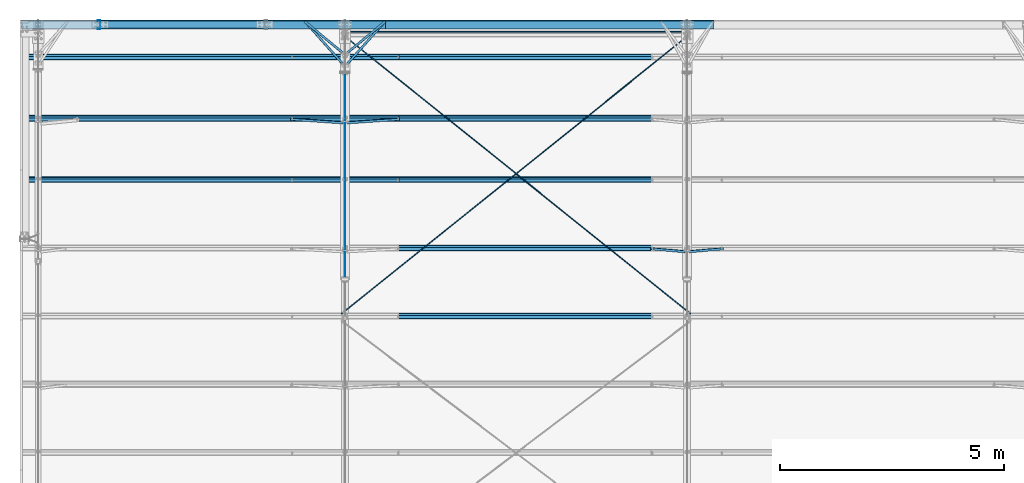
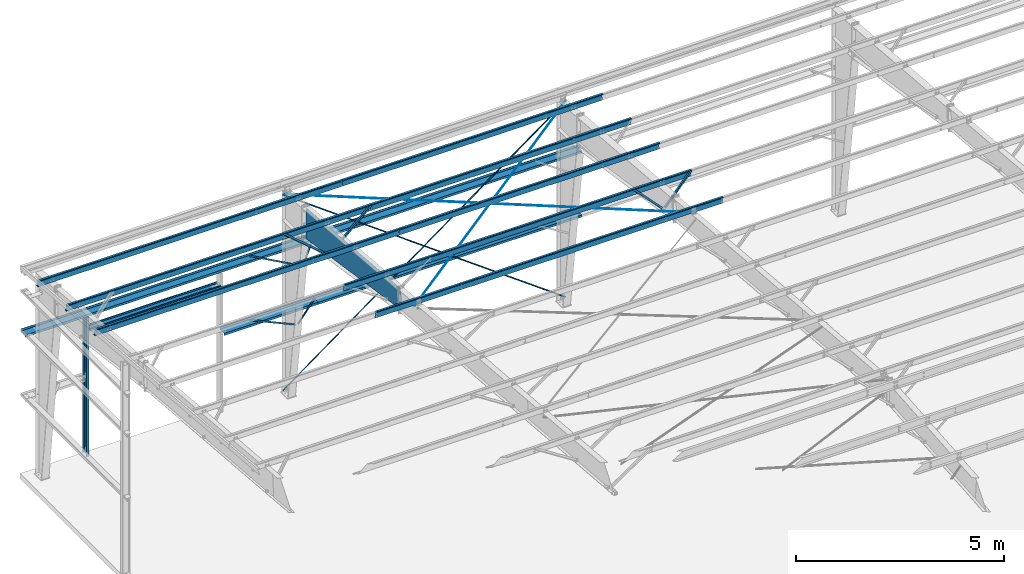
# One storey, part 13 of 185: 21 beams, 6 members, 27 elements without a shape of their own.
"""IFC2X3 building model written with IfcOpenShell, lengths in millimetres."""

from ifc_helpers import new_model, si_unit, frame, origin_with_axes, origin_2d_with_axis, place, context, subcontext, project, spatial, polyline, rectangle, circle, outline, extrude, clip, halfspace, material, type_object, element, aggregate, save


model = new_model("IFC2X3")

# Units and contexts
model_context = context("Model", 3, precision=1e-05, world=origin_with_axes())
body_context = subcontext(model_context, "Body", "Model", "MODEL_VIEW")
ifc_project = project(units=[si_unit("LENGTHUNIT", "METRE", prefix="MILLI"), si_unit("AREAUNIT", "SQUARE_METRE"), si_unit("VOLUMEUNIT", "CUBIC_METRE"), si_unit("MASSUNIT", "GRAM", prefix="KILO"), si_unit("TIMEUNIT", "SECOND"), si_unit("PLANEANGLEUNIT", "RADIAN"), si_unit("SOLIDANGLEUNIT", "STERADIAN"), si_unit("THERMODYNAMICTEMPERATUREUNIT", "DEGREE_CELSIUS"), si_unit("LUMINOUSINTENSITYUNIT", "LUMEN")], contexts=[model_context])

# Site, building, storey
site_placement = place(None, origin_with_axes())
site = spatial("IfcSite", under=ifc_project, at=site_placement, Name="Undefined", CompositionType="ELEMENT")
building_placement = place(site_placement, origin_with_axes())
building = spatial("IfcBuilding", under=site, at=building_placement, Name="Undefined", CompositionType="ELEMENT")
storey_placement = place(building_placement, origin_with_axes())
storey = spatial("IfcBuildingStorey", under=building, at=storey_placement, Name="Undefined", CompositionType="ELEMENT", Elevation=0.0)

# Assembly, beam
assembly_1_placement = place(storey_placement, origin_with_axes())
assembly_1 = element("IfcElementAssembly", 1, at=assembly_1_placement, inside=storey, Name="Steel Assembly", AssemblyPlace="NOTDEFINED", PredefinedType="RIGID_FRAME")
ifc_material = material(Name="STEEL/55")
beam_type_1 = type_object("IfcBeamType", Name="8Z15", PredefinedType="NOTDEFINED")
beam_1_placement = place(assembly_1_placement, frame((14859.0, 31180.9195102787, 6062.63787351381), z_axis=(0.0, -0.0830454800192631, -0.996545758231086), x_axis=(-1.0, 0.0, 0.0)))
beam_1 = element("IfcBeam", 2, at=beam_1_placement, type_object=beam_type_1, material=ifc_material, Name="Purlin", ObjectType="8Z15", context=body_context, shape_type="Clipping", body=[
    clip(clip(extrude(outline(polyline([(-75.75, 87.0100021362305), (-63.5, 101.599998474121), (1.5900000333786, 101.599998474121), (1.5900000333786, -98.4199981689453), (62.0200004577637, -98.4199981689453), (73.3099975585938, -84.9700012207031), (75.7399978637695, -87.0100021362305), (63.5, -101.599998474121), (-1.5900000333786, -101.599998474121), (-1.5900000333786, 98.4199981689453), (-62.0200004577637, 98.4199981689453), (-73.3099975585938, 84.9700012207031), (-75.75, 87.0100021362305)])), frame((8826.5, 0.0, 0.0), z_axis=(-1.0, 0.0, 0.0), x_axis=(0.0, -1.0, 0.0)), (0.0, 0.0, 1.0), 9626.6), halfspace(frame((8826.5, 2.91402102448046e-09, -101.600000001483), z_axis=(-1.0, 0.0, 0.0), x_axis=(0.0, 0.0, 1.0)), True)), halfspace(frame((-800.1, 2.91402102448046e-09, -101.600000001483), z_axis=(-1.0, 0.0, 0.0), x_axis=(0.0, 0.0, 1.0)), False)),
])
aggregate(assembly_1, [beam_1])

assembly_2_placement = place(storey_placement, origin_with_axes())
assembly_2 = element("IfcElementAssembly", 3, at=assembly_2_placement, inside=storey, Name="Steel Assembly", AssemblyPlace="NOTDEFINED", PredefinedType="RIGID_FRAME")
beam_2_placement = place(assembly_2_placement, frame((14859.0, 29814.0573482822, 6176.54305391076), z_axis=(0.0, -0.0830454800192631, -0.996545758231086), x_axis=(-1.0, 0.0, 0.0)))
beam_2 = element("IfcBeam", 4, at=beam_2_placement, type_object=beam_type_1, material=ifc_material, Name="Purlin", ObjectType="8Z15", context=body_context, shape_type="Clipping", body=[
    clip(clip(extrude(outline(polyline([(-75.75, 87.0100021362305), (-63.5, 101.599998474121), (1.5900000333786, 101.599998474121), (1.5900000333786, -98.4199981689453), (62.0200004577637, -98.4199981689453), (73.3099975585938, -84.9700012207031), (75.7399978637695, -87.0100021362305), (63.5, -101.599998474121), (-1.5900000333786, -101.599998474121), (-1.5900000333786, 98.4199981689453), (-62.0200004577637, 98.4199981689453), (-73.3099975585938, 84.9700012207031), (-75.75, 87.0100021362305)])), frame((8826.5, 0.0, 0.0), z_axis=(-1.0, 0.0, 0.0), x_axis=(0.0, -1.0, 0.0)), (0.0, 0.0, 1.0), 9626.6), halfspace(frame((8826.5, 2.91402102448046e-09, -101.600000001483), z_axis=(-1.0, 0.0, 0.0), x_axis=(0.0, 0.0, 1.0)), True)), halfspace(frame((-800.1, 2.91402102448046e-09, -101.600000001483), z_axis=(-1.0, 0.0, 0.0), x_axis=(0.0, 0.0, 1.0)), False)),
])
aggregate(assembly_2, [beam_2])

assembly_3_placement = place(storey_placement, origin_with_axes())
assembly_3 = element("IfcElementAssembly", 5, at=assembly_3_placement, inside=storey, Name="Steel Assembly", AssemblyPlace="NOTDEFINED", PredefinedType="RIGID_FRAME")
beam_3_placement = place(assembly_3_placement, frame((14859.0, 28447.1951862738, 6290.4482343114), z_axis=(0.0, -0.0830454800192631, -0.996545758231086), x_axis=(-1.0, 0.0, 0.0)))
beam_3 = element("IfcBeam", 6, at=beam_3_placement, type_object=beam_type_1, material=ifc_material, Name="Purlin", ObjectType="8Z15", context=body_context, shape_type="Clipping", body=[
    clip(clip(extrude(outline(polyline([(-75.75, 87.0100021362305), (-63.5, 101.599998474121), (1.5900000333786, 101.599998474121), (1.5900000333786, -98.4199981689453), (62.0200004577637, -98.4199981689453), (73.3099975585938, -84.9700012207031), (75.7399978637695, -87.0100021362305), (63.5, -101.599998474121), (-1.5900000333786, -101.599998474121), (-1.5900000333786, 98.4199981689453), (-62.0200004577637, 98.4199981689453), (-73.3099975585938, 84.9700012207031), (-75.75, 87.0100021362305)])), frame((8826.5, 0.0, 0.0), z_axis=(-1.0, 0.0, 0.0), x_axis=(0.0, -1.0, 0.0)), (0.0, 0.0, 1.0), 9626.6), halfspace(frame((8826.5, 2.91402102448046e-09, -101.600000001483), z_axis=(-1.0, 0.0, 0.0), x_axis=(0.0, 0.0, 1.0)), True)), halfspace(frame((-800.1, 2.91402102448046e-09, -101.600000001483), z_axis=(-1.0, 0.0, 0.0), x_axis=(0.0, 0.0, 1.0)), False)),
])
aggregate(assembly_3, [beam_3])

assembly_4_placement = place(storey_placement, origin_with_axes())
assembly_4 = element("IfcElementAssembly", 7, at=assembly_4_placement, inside=storey, Name="Steel Assembly", AssemblyPlace="NOTDEFINED", PredefinedType="RIGID_FRAME")
beam_4_placement = place(assembly_4_placement, frame((14859.0, 26928.4594507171, 6417.00954586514), z_axis=(0.0, -0.0830454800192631, -0.996545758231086), x_axis=(-1.0, 0.0, 0.0)))
beam_4 = element("IfcBeam", 8, at=beam_4_placement, type_object=beam_type_1, material=ifc_material, Name="Purlin", ObjectType="8Z15", context=body_context, shape_type="Clipping", body=[
    clip(clip(extrude(outline(polyline([(-75.75, 87.0100021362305), (-63.5, 101.599998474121), (1.5900000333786, 101.599998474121), (1.5900000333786, -98.4199981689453), (62.0200004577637, -98.4199981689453), (73.3099975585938, -84.9700012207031), (75.7399978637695, -87.0100021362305), (63.5, -101.599998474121), (-1.5900000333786, -101.599998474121), (-1.5900000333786, 98.4199981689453), (-62.0200004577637, 98.4199981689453), (-73.3099975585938, 84.9700012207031), (-75.75, 87.0100021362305)])), frame((8826.5, 0.0, 0.0), z_axis=(-1.0, 0.0, 0.0), x_axis=(0.0, -1.0, 0.0)), (0.0, 0.0, 1.0), 9626.6), halfspace(frame((8826.5, 2.91402102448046e-09, -101.600000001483), z_axis=(-1.0, 0.0, 0.0), x_axis=(0.0, 0.0, 1.0)), True)), halfspace(frame((-800.1, 2.91402102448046e-09, -101.600000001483), z_axis=(-1.0, 0.0, 0.0), x_axis=(0.0, 0.0, 1.0)), False)),
])
aggregate(assembly_4, [beam_4])

assembly_5_placement = place(storey_placement, origin_with_axes())
assembly_5 = element("IfcElementAssembly", 9, at=assembly_5_placement, inside=storey, Name="Steel Assembly", AssemblyPlace="NOTDEFINED", PredefinedType="RIGID_FRAME")
beam_5_placement = place(assembly_5_placement, frame((14859.0, 25409.7237151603, 6543.57085741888), z_axis=(0.0, -0.0830454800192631, -0.996545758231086), x_axis=(-1.0, 0.0, 0.0)))
beam_5 = element("IfcBeam", 10, at=beam_5_placement, type_object=beam_type_1, material=ifc_material, Name="Purlin", ObjectType="8Z15", context=body_context, shape_type="Clipping", body=[
    clip(clip(extrude(outline(polyline([(-75.75, 87.0100021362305), (-63.5, 101.599998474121), (1.5900000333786, 101.599998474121), (1.5900000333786, -98.4199981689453), (62.0200004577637, -98.4199981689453), (73.3099975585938, -84.9700012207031), (75.7399978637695, -87.0100021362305), (63.5, -101.599998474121), (-1.5900000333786, -101.599998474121), (-1.5900000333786, 98.4199981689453), (-62.0200004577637, 98.4199981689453), (-73.3099975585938, 84.9700012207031), (-75.75, 87.0100021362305)])), frame((8826.5, 0.0, 0.0), z_axis=(-1.0, 0.0, 0.0), x_axis=(0.0, -1.0, 0.0)), (0.0, 0.0, 1.0), 9626.6), halfspace(frame((8826.5, 2.91402102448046e-09, -101.600000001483), z_axis=(-1.0, 0.0, 0.0), x_axis=(0.0, 0.0, 1.0)), True)), halfspace(frame((-800.1, 2.91402102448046e-09, -101.600000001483), z_axis=(-1.0, 0.0, 0.0), x_axis=(0.0, 0.0, 1.0)), False)),
])
aggregate(assembly_5, [beam_5])

assembly_6_placement = place(storey_placement, origin_with_axes())
assembly_6 = element("IfcElementAssembly", 11, at=assembly_6_placement, inside=storey, Name="Steel Assembly", AssemblyPlace="NOTDEFINED", PredefinedType="RIGID_FRAME")
beam_6_placement = place(assembly_6_placement, frame((14859.0, 31902.4, 4165.6), z_axis=(0.0, -1.0, 0.0), x_axis=(-1.0, 0.0, 0.0)))
beam_6 = element("IfcBeam", 12, at=beam_6_placement, type_object=beam_type_1, material=ifc_material, Name="Girt", ObjectType="8Z15", context=body_context, shape_type="Clipping", body=[
    clip(clip(extrude(outline(polyline([(-75.75, 87.0100021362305), (-63.5, 101.599998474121), (1.5900000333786, 101.599998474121), (1.5900000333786, -98.4199981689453), (62.0200004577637, -98.4199981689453), (73.3099975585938, -84.9700012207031), (75.7399978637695, -87.0100021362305), (63.5, -101.599998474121), (-1.5900000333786, -101.599998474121), (-1.5900000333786, 98.4199981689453), (-62.0200004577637, 98.4199981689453), (-73.3099975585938, 84.9700012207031), (-75.75, 87.0100021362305)])), frame((8521.7, 0.0, 0.0), z_axis=(-1.0, 0.0, 0.0), x_axis=(0.0, -1.0, 0.0)), (0.0, 0.0, 1.0), 9118.6), halfspace(frame((8521.7, 0.0, -101.599999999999), z_axis=(1.0, 0.0, 0.0), x_axis=(0.0, 1.0, 0.0)), False)), halfspace(frame((-596.900000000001, 0.0, -101.6), z_axis=(1.0, 0.0, 0.0), x_axis=(0.0, 1.0, 0.0)), True)),
])
aggregate(assembly_6, [beam_6])

assembly_7_placement = place(storey_placement, origin_with_axes())
assembly_7 = element("IfcElementAssembly", 13, at=assembly_7_placement, inside=storey, Name="Steel Assembly", AssemblyPlace="NOTDEFINED", PredefinedType="RIGID_FRAME")
beam_type_2 = type_object("IfcBeamType", Name="FB-", PredefinedType="NOTDEFINED")
beam_7_placement = place(assembly_7_placement, frame((7282.3896161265, 31233.634497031, 2285.99999999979), z_axis=(-0.636105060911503, 0.77160245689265, 0.0), x_axis=(0.771602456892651, 0.636105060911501, 0.0)))
beam_7 = element("IfcBeam", 14, at=beam_7_placement, type_object=beam_type_2, material=ifc_material, Name="2X2 FLANGE BRACE X 48", ObjectType="FB-", context=body_context, shape_type="SweptSolid", body=[
    extrude(outline(polyline([(1.5900000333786, 1.59000003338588), (50.7999992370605, 1.59000003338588), (50.7999992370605, 7.27595761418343e-12), (0.0, 0.0), (0.0, 50.7999992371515), (1.5900000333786, 50.7999992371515), (1.5900000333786, 1.59000003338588)])), frame((1125.79495665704, 0.0, -1.24988348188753e-13), z_axis=(-1.0, 0.0, 0.0), x_axis=(0.0, -1.0, 0.0)), (0.0, 0.0, 1.0), 1125.8),
])
aggregate(assembly_7, [beam_7])

assembly_8_placement = place(storey_placement, origin_with_axes())
assembly_8 = element("IfcElementAssembly", 15, at=assembly_8_placement, inside=storey, Name="Steel Assembly", AssemblyPlace="NOTDEFINED", PredefinedType="RIGID_FRAME")
beam_8_placement = place(assembly_8_placement, frame((7195.61038387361, 31233.634497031, 2286.00000000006), z_axis=(0.0, 0.0, 1.0), x_axis=(-0.771602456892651, 0.636105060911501, 0.0)))
beam_8 = element("IfcBeam", 16, at=beam_8_placement, type_object=beam_type_2, material=ifc_material, Name="2X2 FLANGE BRACE X 48", ObjectType="FB-", context=body_context, shape_type="SweptSolid", body=[
    extrude(outline(polyline([(1.5900000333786, 1.59000003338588), (50.7999992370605, 1.59000003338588), (50.7999992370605, 7.27595761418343e-12), (0.0, 0.0), (0.0, 50.7999992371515), (1.5900000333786, 50.7999992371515), (1.5900000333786, 1.59000003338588)])), frame((1125.79495665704, 0.0, -1.24988348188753e-13), z_axis=(-1.0, 0.0, 0.0), x_axis=(0.0, -1.0, 0.0)), (0.0, 0.0, 1.0), 1125.8),
])
aggregate(assembly_8, [beam_8])

assembly_9_placement = place(storey_placement, origin_with_axes())
assembly_9 = element("IfcElementAssembly", 17, at=assembly_9_placement, inside=storey, Name="Steel Assembly", AssemblyPlace="NOTDEFINED", PredefinedType="RIGID_FRAME")
beam_9_placement = place(assembly_9_placement, frame((7287.91492984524, 30985.5315740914, 4165.60000000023), z_axis=(-0.746933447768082, 0.664898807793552, 0.0), x_axis=(0.664898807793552, 0.746933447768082, 0.0)))
beam_9 = element("IfcBeam", 18, at=beam_9_placement, type_object=beam_type_2, material=ifc_material, Name="2X2 FLANGE BRACE X 60", ObjectType="FB-", context=body_context, shape_type="SweptSolid", body=[
    extrude(outline(polyline([(1.5900000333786, 1.59000003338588), (50.7999992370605, 1.59000003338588), (50.7999992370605, 7.27595761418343e-12), (0.0, 0.0), (0.0, 50.7999992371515), (1.5900000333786, 50.7999992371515), (1.5900000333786, 1.59000003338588)])), frame((1298.31126038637, 0.0, 0.0), z_axis=(-1.0, 0.0, 0.0), x_axis=(0.0, -1.0, 0.0)), (0.0, 0.0, 1.0), 1298.3),
])
aggregate(assembly_9, [beam_9])

assembly_10_placement = place(storey_placement, origin_with_axes())
assembly_10 = element("IfcElementAssembly", 19, at=assembly_10_placement, inside=storey, Name="Steel Assembly", AssemblyPlace="NOTDEFINED", PredefinedType="RIGID_FRAME")
beam_10_placement = place(assembly_10_placement, frame((7190.08507015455, 30985.5315740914, 4165.59999999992), z_axis=(0.0, 0.0, 1.0), x_axis=(-0.664898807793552, 0.746933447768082, 0.0)))
beam_10 = element("IfcBeam", 20, at=beam_10_placement, type_object=beam_type_2, material=ifc_material, Name="2X2 FLANGE BRACE X 60", ObjectType="FB-", context=body_context, shape_type="SweptSolid", body=[
    extrude(outline(polyline([(1.5900000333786, 1.59000003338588), (50.7999992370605, 1.59000003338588), (50.7999992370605, 7.27595761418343e-12), (0.0, 0.0), (0.0, 50.7999992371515), (1.5900000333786, 50.7999992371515), (1.5900000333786, 1.59000003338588)])), frame((1298.31126038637, 0.0, 0.0), z_axis=(-1.0, 0.0, 0.0), x_axis=(0.0, -1.0, 0.0)), (0.0, 0.0, 1.0), 1298.3),
])
aggregate(assembly_10, [beam_10])

assembly_11_placement = place(storey_placement, origin_with_axes())
assembly_11 = element("IfcElementAssembly", 21, at=assembly_11_placement, inside=storey, Name="Steel Assembly", AssemblyPlace="NOTDEFINED", PredefinedType="RIGID_FRAME")
beam_type_3 = type_object("IfcBeamType", Name="8Z16", PredefinedType="NOTDEFINED")
beam_11_placement = place(assembly_11_placement, frame((7239.0, 31902.4, 2286.0), z_axis=(0.0, -1.0, 0.0), x_axis=(-1.0, 0.0, 0.0)))
beam_11 = element("IfcBeam", 22, at=beam_11_placement, type_object=beam_type_3, material=ifc_material, Name="Girt", ObjectType="8Z16", context=body_context, shape_type="Clipping", body=[
    clip(clip(extrude(outline(polyline([(73.3099975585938, -84.9700012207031), (75.7399978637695, -87.0100021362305), (63.5, -101.599998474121), (-1.5900000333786, -101.599998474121), (-1.5900000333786, 98.4199981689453), (-62.0200004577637, 98.4199981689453), (-73.3099975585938, 84.9700012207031), (-75.75, 87.0100021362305), (-63.5, 101.599998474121), (1.5900000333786, 101.599998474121), (1.5900000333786, -98.4199981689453), (62.0200004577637, -98.4199981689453), (73.3099975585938, -84.9700012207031)])), frame((1701.8, 0.0, 0.0), z_axis=(-1.0, 0.0, 0.0), x_axis=(0.0, -1.0, 0.0)), (0.0, 0.0, 1.0), 2603.5), halfspace(frame((1701.8, -1.59000003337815, 0.0), z_axis=(-1.0, 0.0, 0.0), x_axis=(0.0, -1.0, 0.0)), True)), halfspace(frame((-901.7, 0.0, -101.599999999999), z_axis=(1.0, 0.0, 0.0), x_axis=(0.0, 1.0, 0.0)), True)),
])
aggregate(assembly_11, [beam_11])

assembly_12_placement = place(storey_placement, origin_with_axes())
assembly_12 = element("IfcElementAssembly", 23, at=assembly_12_placement, inside=storey, Name="Steel Assembly", AssemblyPlace="NOTDEFINED", PredefinedType="RIGID_FRAME")
beam_12_placement = place(assembly_12_placement, frame((14859.0, 31902.4, 2286.0), z_axis=(0.0, -1.0, 0.0), x_axis=(-1.0, 0.0, 0.0)))
beam_12 = element("IfcBeam", 24, at=beam_12_placement, type_object=beam_type_3, material=ifc_material, Name="Girt", ObjectType="8Z16", context=body_context, shape_type="Clipping", body=[
    clip(clip(extrude(outline(polyline([(73.3099975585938, -84.9700012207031), (75.7399978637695, -87.0100021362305), (63.5, -101.599998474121), (-1.5900000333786, -101.599998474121), (-1.5900000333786, 98.4199981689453), (-62.0200004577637, 98.4199981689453), (-73.3099975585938, 84.9700012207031), (-75.75, 87.0100021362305), (-63.5, 101.599998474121), (1.5900000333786, 101.599998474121), (1.5900000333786, -98.4199981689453), (62.0200004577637, -98.4199981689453), (73.3099975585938, -84.9700012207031)])), frame((8521.7, 0.0, 0.0), z_axis=(-1.0, 0.0, 0.0), x_axis=(0.0, -1.0, 0.0)), (0.0, 0.0, 1.0), 9118.6), halfspace(frame((8521.7, 0.0, -101.599999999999), z_axis=(1.0, 0.0, 0.0), x_axis=(0.0, 1.0, 0.0)), False)), halfspace(frame((-596.900000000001, 0.0, -101.6), z_axis=(1.0, 0.0, 0.0), x_axis=(0.0, 1.0, 0.0)), True)),
])
aggregate(assembly_12, [beam_12])

assembly_13_placement = place(storey_placement, origin_with_axes())
assembly_13 = element("IfcElementAssembly", 25, at=assembly_13_placement, inside=storey, Name="Steel Assembly", AssemblyPlace="NOTDEFINED", PredefinedType="RIGID_FRAME")
beam_type_4 = type_object("IfcBeamType", Name="8C16", PredefinedType="NOTDEFINED")
beam_13_placement = place(assembly_13_placement, frame((1758.95, 31902.4, 4165.6), z_axis=(0.0, 1.0, 0.0), x_axis=(0.0, 0.0, -1.0)))
beam_13 = element("IfcBeam", 26, at=beam_13_placement, type_object=beam_type_4, material=ifc_material, Name="Jamb", ObjectType="8C16", context=body_context, shape_type="Clipping", body=[
    clip(extrude(outline(polyline([(-31.75, 79.370002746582), (-31.75, 101.599998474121), (31.75, 101.599998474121), (31.75, -101.599998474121), (-31.75, -101.599998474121), (-31.75, -79.379997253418), (-28.5699996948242, -79.379997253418), (-28.5699996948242, -98.4300003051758), (28.5699996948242, -98.4300003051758), (28.5699996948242, 98.4199981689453), (-28.5699996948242, 98.4199981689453), (-28.5699996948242, 79.370002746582), (-31.75, 79.370002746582)])), frame((4165.6, 0.0, 0.0), z_axis=(-1.0, 0.0, 0.0), x_axis=(0.0, -1.0, 0.0)), (0.0, 0.0, 1.0), 4076.7), halfspace(frame((88.9000000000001, -28.5699996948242, 0.0), z_axis=(1.0, 0.0, 0.0), x_axis=(0.0, 1.0, 0.0)), True)),
])
aggregate(assembly_13, [beam_13])

assembly_14_placement = place(storey_placement, origin_with_axes())
assembly_14 = element("IfcElementAssembly", 27, at=assembly_14_placement, inside=storey, Name="Steel Assembly", AssemblyPlace="NOTDEFINED", PredefinedType="RIGID_FRAME")
beam_14_placement = place(assembly_14_placement, frame((5448.3, 31902.4, 3689.35), z_axis=(0.0, 1.0, 0.0), x_axis=(-1.0, 0.0, 0.0)))
beam_14 = element("IfcBeam", 28, at=beam_14_placement, type_object=beam_type_4, material=ifc_material, Name="Header", ObjectType="8C16", context=body_context, shape_type="Clipping", body=[
    clip(clip(extrude(outline(polyline([(-31.75, 79.370002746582), (-31.75, 101.599998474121), (31.75, 101.599998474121), (31.75, -101.599998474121), (-31.75, -101.599998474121), (-31.75, -79.379997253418), (-28.5699996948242, -79.379997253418), (-28.5699996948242, -98.4300003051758), (28.5699996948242, -98.4300003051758), (28.5699996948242, 98.4199981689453), (-28.5699996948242, 98.4199981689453), (-28.5699996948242, 79.370002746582), (-31.75, 79.370002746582)])), frame((3657.6, 0.0, 0.0), z_axis=(-1.0, 0.0, 0.0), x_axis=(0.0, -1.0, 0.0)), (0.0, 0.0, 1.0), 3657.6), halfspace(frame((3657.6, -28.5699996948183, 0.0), z_axis=(-1.0, 0.0, 0.0), x_axis=(0.0, 1.0, 0.0)), True)), halfspace(frame((0.0, -28.5699996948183, 0.0), z_axis=(1.0, 0.0, 0.0), x_axis=(0.0, 1.0, 0.0)), True)),
])
aggregate(assembly_14, [beam_14])

# Assembly, member
assembly_15_placement = place(storey_placement, origin_with_axes())
assembly_15 = element("IfcElementAssembly", 29, at=assembly_15_placement, inside=storey, Name="Steel Assembly", AssemblyPlace="NOTDEFINED", PredefinedType="RIGID_FRAME")
member_type_1 = type_object("IfcMemberType", Name="FB-", PredefinedType="NOTDEFINED")
member_1_placement = place(assembly_15_placement, frame((14906.4331333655, 26867.1879450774, 5681.75147708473), z_axis=(-0.718860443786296, 0.0577294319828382, 0.692753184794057), x_axis=(0.695154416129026, 0.0596981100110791, 0.716377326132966)))
member_1 = element("IfcMember", 30, at=member_1_placement, type_object=member_type_1, material=ifc_material, Name="2X2 FLANGE BRACE X 48", ObjectType="FB-", context=body_context, shape_type="SweptSolid", body=[
    extrude(outline(polyline([(1.5900000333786, 1.59000003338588), (50.7999992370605, 1.59000003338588), (50.7999992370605, 7.27595761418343e-12), (0.0, 0.0), (0.0, 50.7999992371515), (1.5900000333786, 50.7999992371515), (1.5900000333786, 1.59000003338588)])), frame((1097.86088662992, -3.65321468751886e-12, 1.03138174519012e-12), z_axis=(-1.0, 0.0, 0.0), x_axis=(0.0, -1.0, 0.0)), (0.0, 0.0, 1.0), 1097.9),
])
aggregate(assembly_15, [member_1])

assembly_16_placement = place(storey_placement, origin_with_axes())
assembly_16 = element("IfcElementAssembly", 31, at=assembly_16_placement, inside=storey, Name="Steel Assembly", AssemblyPlace="NOTDEFINED", PredefinedType="RIGID_FRAME")
member_2_placement = place(assembly_16_placement, frame((14811.5668666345, 26867.1879450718, 5681.75147708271), z_axis=(0.0, -0.996545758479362, 0.0830454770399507), x_axis=(-0.695154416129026, 0.0596981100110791, 0.716377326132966)))
member_2 = element("IfcMember", 32, at=member_2_placement, type_object=member_type_1, material=ifc_material, Name="2X2 FLANGE BRACE X 48", ObjectType="FB-", context=body_context, shape_type="SweptSolid", body=[
    extrude(outline(polyline([(1.5900000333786, 1.59000003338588), (50.7999992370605, 1.59000003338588), (50.7999992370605, 7.27595761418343e-12), (0.0, 0.0), (0.0, 50.7999992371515), (1.5900000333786, 50.7999992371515), (1.5900000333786, 1.59000003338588)])), frame((1097.86088662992, -3.65321468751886e-12, 1.03138174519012e-12), z_axis=(-1.0, 0.0, 0.0), x_axis=(0.0, -1.0, 0.0)), (0.0, 0.0, 1.0), 1097.9),
])
aggregate(assembly_16, [member_2])

assembly_17_placement = place(storey_placement, origin_with_axes())
assembly_17 = element("IfcElementAssembly", 33, at=assembly_17_placement, inside=storey, Name="Steel Assembly", AssemblyPlace="NOTDEFINED", PredefinedType="RIGID_FRAME")
member_3_placement = place(assembly_17_placement, frame((7282.52933492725, 29737.0297531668, 5252.21191213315), z_axis=(-0.639120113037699, 0.0638708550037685, 0.766450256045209), x_axis=(0.769106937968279, 0.0530760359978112, 0.636912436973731)))
member_3 = element("IfcMember", 34, at=member_3_placement, type_object=member_type_1, material=ifc_material, Name="2X2 FLANGE BRACE X 60", ObjectType="FB-", context=body_context, shape_type="SweptSolid", body=[
    extrude(outline(polyline([(1.5900000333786, 1.59000003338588), (50.7999992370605, 1.59000003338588), (50.7999992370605, 7.27595761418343e-12), (0.0, 0.0), (0.0, 50.7999992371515), (1.5900000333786, 50.7999992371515), (1.5900000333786, 1.59000003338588)])), frame((1525.58711176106, 0.0, -1.30624257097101e-12), z_axis=(-1.0, 0.0, 0.0), x_axis=(0.0, -1.0, 0.0)), (0.0, 0.0, 1.0), 1525.6),
])
aggregate(assembly_17, [member_3])

assembly_18_placement = place(storey_placement, origin_with_axes())
assembly_18 = element("IfcElementAssembly", 35, at=assembly_18_placement, inside=storey, Name="Steel Assembly", AssemblyPlace="NOTDEFINED", PredefinedType="RIGID_FRAME")
member_4_placement = place(assembly_18_placement, frame((7195.47066507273, 29737.0297531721, 5252.2119121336), z_axis=(0.0, -0.996545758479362, 0.0830454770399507), x_axis=(-0.769106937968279, 0.0530760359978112, 0.636912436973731)))
member_4 = element("IfcMember", 36, at=member_4_placement, type_object=member_type_1, material=ifc_material, Name="2X2 FLANGE BRACE X 60", ObjectType="FB-", context=body_context, shape_type="SweptSolid", body=[
    extrude(outline(polyline([(1.5900000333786, 1.59000003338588), (50.7999992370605, 1.59000003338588), (50.7999992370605, 7.27595761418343e-12), (0.0, 0.0), (0.0, 50.7999992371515), (1.5900000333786, 50.7999992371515), (1.5900000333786, 1.59000003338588)])), frame((1525.58711176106, 0.0, -1.30624257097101e-12), z_axis=(-1.0, 0.0, 0.0), x_axis=(0.0, -1.0, 0.0)), (0.0, 0.0, 1.0), 1525.6),
])
aggregate(assembly_18, [member_4])

assembly_19_placement = place(storey_placement, origin_with_axes())
assembly_19 = element("IfcElementAssembly", 37, at=assembly_19_placement, inside=storey, Name="Steel Assembly", AssemblyPlace="NOTDEFINED", PredefinedType="RIGID_FRAME")
member_type_2 = type_object("IfcMemberType", Name="RB1\"", PredefinedType="NOTDEFINED")
member_5_placement = place(assembly_19_placement, frame((14961.6553735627, 31742.126, 93.2312223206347), z_axis=(0.590895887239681, 0.0, 0.806747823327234), x_axis=(-0.806747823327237, 0.0, 0.590895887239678)))
member_5 = element("IfcMember", 38, at=member_5_placement, type_object=member_type_2, material=ifc_material, Name="ROD BRACE - 1", ObjectType="RB1\"", context=body_context, shape_type="SweptSolid", body=[
    extrude(circle(Radius=12.7, at=origin_2d_with_axis()), frame((9702.50572014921, 3.63797880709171e-12, 0.0), z_axis=(-1.0, 0.0, 0.0), x_axis=(0.0, -1.0, 0.0)), (0.0, 0.0, 1.0), 9702.5),
])
aggregate(assembly_19, [member_5])

assembly_20_placement = place(storey_placement, origin_with_axes())
assembly_20 = element("IfcElementAssembly", 39, at=assembly_20_placement, inside=storey, Name="Steel Assembly", AssemblyPlace="NOTDEFINED", PredefinedType="RIGID_FRAME")
member_6_placement = place(assembly_20_placement, frame((7136.74142643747, 31742.126, 93.2312223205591), z_axis=(-0.59089588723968, 0.0, 0.806747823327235), x_axis=(0.806747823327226, 0.0, 0.590895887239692)))
member_6 = element("IfcMember", 40, at=member_6_placement, type_object=member_type_2, material=ifc_material, Name="ROD BRACE - 1", ObjectType="RB1\"", context=body_context, shape_type="SweptSolid", body=[
    extrude(circle(Radius=12.7, at=origin_2d_with_axis()), frame((9702.50572014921, 3.63797880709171e-12, 0.0), z_axis=(-1.0, 0.0, 0.0), x_axis=(0.0, -1.0, 0.0)), (0.0, 0.0, 1.0), 9702.5),
])
aggregate(assembly_20, [member_6])

# Assembly, beam
assembly_21_placement = place(storey_placement, origin_with_axes())
assembly_21 = element("IfcElementAssembly", 41, at=assembly_21_placement, inside=storey, Name="Steel Assembly", AssemblyPlace="NOTDEFINED", PredefinedType="RIGID_FRAME")
beam_type_5 = type_object("IfcBeamType", Name="RB3/4\"", PredefinedType="NOTDEFINED")
beam_15_placement = place(assembly_21_placement, frame((14938.1377763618, 31700.3820935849, 5858.44331967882), z_axis=(0.0803360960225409, -0.0170741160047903, 0.996621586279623), x_axis=(-0.778915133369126, -0.624963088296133, 0.0520802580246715)))
beam_15 = element("IfcBeam", 42, at=beam_15_placement, type_object=beam_type_5, material=ifc_material, Name="ROD BRACE - 3/4", ObjectType="RB3/4\"", context=body_context, shape_type="SweptSolid", body=[
    extrude(circle(Radius=9.525, at=origin_2d_with_axis()), frame((9982.86227122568, -1.95752944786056e-12, 6.92700221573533e-14), z_axis=(-1.0, 0.0, 0.0), x_axis=(0.0, -1.0, 0.0)), (0.0, 0.0, 1.0), 9982.9),
])
aggregate(assembly_21, [beam_15])

assembly_22_placement = place(storey_placement, origin_with_axes())
assembly_22 = element("IfcElementAssembly", 43, at=assembly_22_placement, inside=storey, Name="Steel Assembly", AssemblyPlace="NOTDEFINED", PredefinedType="RIGID_FRAME")
beam_16_placement = place(assembly_22_placement, frame((7159.86222173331, 31700.3817232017, 5858.44334735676), z_axis=(-0.080287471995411, -0.0170131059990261, 0.996626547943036), x_axis=(0.778915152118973, -0.624963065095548, 0.0520802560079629)))
beam_16 = element("IfcBeam", 44, at=beam_16_placement, type_object=beam_type_5, material=ifc_material, Name="ROD BRACE - 3/4", ObjectType="RB3/4\"", context=body_context, shape_type="SweptSolid", body=[
    extrude(circle(Radius=9.525, at=origin_2d_with_axis()), frame((9982.86203985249, 8.00934612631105e-13, 7.7095466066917e-13), z_axis=(-1.0, 0.0, 0.0), x_axis=(0.0, -1.0, 0.0)), (0.0, 0.0, 1.0), 9982.9),
])
aggregate(assembly_22, [beam_16])

assembly_23_placement = place(storey_placement, origin_with_axes())
assembly_23 = element("IfcElementAssembly", 45, at=assembly_23_placement, inside=storey, Name="Steel Assembly", AssemblyPlace="NOTDEFINED", PredefinedType="RIGID_FRAME")
beam_type_6 = type_object("IfcBeamType", Name="8Z12", PredefinedType="NOTDEFINED")
beam_17_placement = place(assembly_23_placement, frame((7239.0, 31902.4, 4165.6), z_axis=(0.0, -1.0, 0.0), x_axis=(-1.0, 0.0, 0.0)))
beam_17 = element("IfcBeam", 46, at=beam_17_placement, type_object=beam_type_6, material=ifc_material, Name="Girt", ObjectType="8Z12", context=body_context, shape_type="Clipping", body=[
    clip(clip(extrude(outline(polyline([(-62.0200004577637, 98.4199981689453), (-73.3099975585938, 84.9700012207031), (-75.75, 87.0100021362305), (-63.5, 101.599998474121), (1.5900000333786, 101.599998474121), (1.5900000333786, -98.4199981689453), (62.0200004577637, -98.4199981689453), (73.3099975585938, -84.9700012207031), (75.7399978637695, -87.0100021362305), (63.5, -101.599998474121), (-1.5900000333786, -101.599998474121), (-1.5900000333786, 98.4199981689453), (-62.0200004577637, 98.4199981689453)])), frame((7213.6, 0.0, 0.0), z_axis=(-1.0, 0.0, 0.0), x_axis=(0.0, -1.0, 0.0)), (0.0, 0.0, 1.0), 8115.3), halfspace(frame((7213.6, 0.0, -101.599999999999), z_axis=(-1.0, 0.0, 0.0), x_axis=(0.0, 0.0, 1.0)), True)), halfspace(frame((-901.7, 0.0, -101.599999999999), z_axis=(1.0, 0.0, 0.0), x_axis=(0.0, 1.0, 0.0)), True)),
])
aggregate(assembly_23, [beam_17])

assembly_24_placement = place(storey_placement, origin_with_axes())
assembly_24 = element("IfcElementAssembly", 47, at=assembly_24_placement, inside=storey, Name="Steel Assembly", AssemblyPlace="NOTDEFINED", PredefinedType="RIGID_FRAME")
beam_type_7 = type_object("IfcBeamType", Name="8Z13", PredefinedType="NOTDEFINED")
beam_18_placement = place(assembly_24_placement, frame((7239.0, 31180.9195102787, 6062.63787351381), z_axis=(0.0, -0.0830454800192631, -0.996545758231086), x_axis=(-1.0, 0.0, 0.0)))
beam_18 = element("IfcBeam", 48, at=beam_18_placement, type_object=beam_type_7, material=ifc_material, Name="Purlin", ObjectType="8Z13", context=body_context, shape_type="Clipping", body=[
    clip(clip(extrude(outline(polyline([(-62.0200004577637, 98.4199981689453), (-73.3099975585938, 84.9700012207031), (-75.75, 87.0100021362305), (-63.5, 101.599998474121), (1.5900000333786, 101.599998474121), (1.5900000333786, -98.4199981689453), (62.0200004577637, -98.4199981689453), (73.3099975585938, -84.9700012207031), (75.7399978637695, -87.0100021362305), (63.5, -101.599998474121), (-1.5900000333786, -101.599998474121), (-1.5900000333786, 98.4199981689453), (-62.0200004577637, 98.4199981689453)])), frame((7226.3, 0.0, 0.0), z_axis=(-1.0, 0.0, 0.0), x_axis=(0.0, -1.0, 0.0)), (0.0, 0.0, 1.0), 8432.8), halfspace(frame((7226.3, 2.91402102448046e-09, -101.600000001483), z_axis=(-1.0, 0.0, 0.0), x_axis=(0.0, 0.0, -1.0)), True)), halfspace(frame((-1206.5, 2.91402102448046e-09, -101.600000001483), z_axis=(-1.0, 0.0, 0.0), x_axis=(0.0, 0.0, 1.0)), False)),
])
aggregate(assembly_24, [beam_18])

assembly_25_placement = place(storey_placement, origin_with_axes())
assembly_25 = element("IfcElementAssembly", 49, at=assembly_25_placement, inside=storey, Name="Steel Assembly", AssemblyPlace="NOTDEFINED", PredefinedType="RIGID_FRAME")
beam_19_placement = place(assembly_25_placement, frame((7239.0, 29814.0573482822, 6176.54305391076), z_axis=(0.0, -0.0830454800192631, -0.996545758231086), x_axis=(-1.0, 0.0, 0.0)))
beam_19 = element("IfcBeam", 50, at=beam_19_placement, type_object=beam_type_7, material=ifc_material, Name="Purlin", ObjectType="8Z13", context=body_context, shape_type="Clipping", body=[
    clip(clip(extrude(outline(polyline([(-62.0200004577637, 98.4199981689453), (-73.3099975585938, 84.9700012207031), (-75.75, 87.0100021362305), (-63.5, 101.599998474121), (1.5900000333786, 101.599998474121), (1.5900000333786, -98.4199981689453), (62.0200004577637, -98.4199981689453), (73.3099975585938, -84.9700012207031), (75.7399978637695, -87.0100021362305), (63.5, -101.599998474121), (-1.5900000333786, -101.599998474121), (-1.5900000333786, 98.4199981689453), (-62.0200004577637, 98.4199981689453)])), frame((7226.3, 0.0, 0.0), z_axis=(-1.0, 0.0, 0.0), x_axis=(0.0, -1.0, 0.0)), (0.0, 0.0, 1.0), 8432.8), halfspace(frame((7226.3, 2.91402102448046e-09, -101.600000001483), z_axis=(-1.0, 0.0, 0.0), x_axis=(0.0, 0.0, -1.0)), True)), halfspace(frame((-1206.5, 2.91402102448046e-09, -101.600000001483), z_axis=(-1.0, 0.0, 0.0), x_axis=(0.0, 0.0, 1.0)), False)),
])
aggregate(assembly_25, [beam_19])

assembly_26_placement = place(storey_placement, origin_with_axes())
assembly_26 = element("IfcElementAssembly", 51, at=assembly_26_placement, inside=storey, Name="Steel Assembly", AssemblyPlace="NOTDEFINED", PredefinedType="RIGID_FRAME")
beam_20_placement = place(assembly_26_placement, frame((7239.0, 28447.1951862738, 6290.4482343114), z_axis=(0.0, -0.0830454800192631, -0.996545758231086), x_axis=(-1.0, 0.0, 0.0)))
beam_20 = element("IfcBeam", 52, at=beam_20_placement, type_object=beam_type_7, material=ifc_material, Name="Purlin", ObjectType="8Z13", context=body_context, shape_type="Clipping", body=[
    clip(clip(extrude(outline(polyline([(-62.0200004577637, 98.4199981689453), (-73.3099975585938, 84.9700012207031), (-75.75, 87.0100021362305), (-63.5, 101.599998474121), (1.5900000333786, 101.599998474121), (1.5900000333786, -98.4199981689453), (62.0200004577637, -98.4199981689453), (73.3099975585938, -84.9700012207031), (75.7399978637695, -87.0100021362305), (63.5, -101.599998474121), (-1.5900000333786, -101.599998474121), (-1.5900000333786, 98.4199981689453), (-62.0200004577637, 98.4199981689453)])), frame((7226.3, 0.0, 0.0), z_axis=(-1.0, 0.0, 0.0), x_axis=(0.0, -1.0, 0.0)), (0.0, 0.0, 1.0), 8432.8), halfspace(frame((7226.3, 2.91402102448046e-09, -101.600000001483), z_axis=(-1.0, 0.0, 0.0), x_axis=(0.0, 0.0, -1.0)), True)), halfspace(frame((-1206.5, 2.91402102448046e-09, -101.600000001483), z_axis=(-1.0, 0.0, 0.0), x_axis=(0.0, 0.0, 1.0)), False)),
])
aggregate(assembly_26, [beam_20])

assembly_27_placement = place(storey_placement, origin_with_axes())
assembly_27 = element("IfcElementAssembly", 53, at=assembly_27_placement, inside=storey, Name="Steel Assembly", AssemblyPlace="NOTDEFINED", PredefinedType="RIGID_FRAME")
beam_type_8 = type_object("IfcBeamType", Name="PL3/16\"X36\"", PredefinedType="NOTDEFINED")
beam_21_placement = place(assembly_27_placement, frame((7239.0, 30859.3851615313, 5520.71772750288), z_axis=(0.0, 0.0830454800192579, 0.996545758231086), x_axis=(0.0, -0.996545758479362, 0.0830454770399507)))
beam_21 = element("IfcBeam", 54, at=beam_21_placement, type_object=beam_type_8, material=ifc_material, Name="Web", ObjectType="PL3/16\"X36\"", context=body_context, shape_type="Clipping", body=[
    clip(clip(clip(extrude(rectangle(XDim=4.762, YDim=914.4, at=origin_2d_with_axis()), frame((4635.45841786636, 0.0, 0.0), z_axis=(-1.0, 0.0, 0.0), x_axis=(0.0, -1.0, 0.0)), (0.0, 0.0, 1.0), 4686.9), halfspace(frame((-0.0865308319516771, 2.38124999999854, -457.199999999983), z_axis=(0.0654332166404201, 0.0, -0.99785695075), x_axis=(0.0, -1.0, 0.0)), False)), halfspace(frame((4635.45841788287, 0.0, 457.199999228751), z_axis=(-1.0, 0.0, 0.0), x_axis=(0.0, -1.0, 0.0)), True)), halfspace(frame((76.004485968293, 0.0, 455.892199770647), z_axis=(-0.996545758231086, 0.0, 0.0830454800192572), x_axis=(0.0, -1.0, 0.0)), False)),
])
aggregate(assembly_27, [beam_21])

save(model, "model.ifc")
